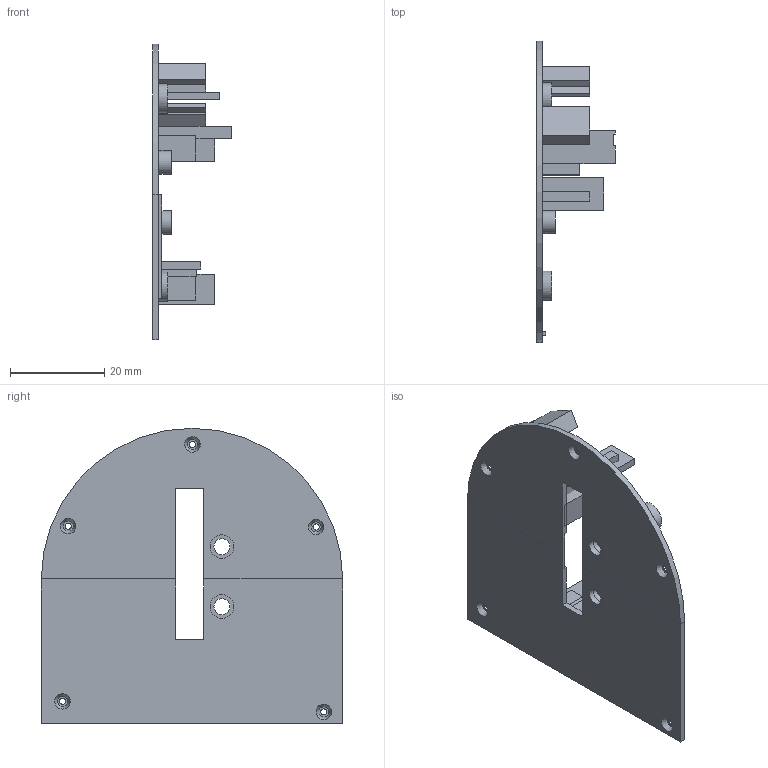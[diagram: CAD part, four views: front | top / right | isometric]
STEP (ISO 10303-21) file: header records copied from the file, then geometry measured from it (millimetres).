
FILE_DESCRIPTION(('FreeCAD Model'),'2;1');
FILE_NAME('/Users/alberto/Desktop/Dtto v2.0.1 STEP/007-1.step', '2017-05-29T11:45:10',('Author'),(''), 'Open CASCADE STEP processor 6.8','FreeCAD','Unknown');
FILE_SCHEMA(('AUTOMOTIVE_DESIGN_CC2 { 1 2 10303 214 -1 1 5 4 }'));
Length unit declared in the file: millimetre
Products named in the file (17): ASSEMBLY; Clone_of_Soporte_Servo_original001; Cubo327; Cubo296; Cubo297; Cubo298; Cubo299; Cut082; Clone_of_SoportLED003; Clone_of_SoportLED004; Original_Soporte_iman001; Clone_of_Cut175; Clone_of_Cut176; Clone_of_Cut177; Clone_of_Cut178; Cut211; Cut235
Assembly tree (16 placements, depth 2):
  ASSEMBLY
    Clone_of_Soporte_Servo_original001
    Cubo327
    Cubo296
    Cubo297
    Cubo298
    Cubo299
    Cut082
    Clone_of_SoportLED003
    Clone_of_SoportLED004
    Original_Soporte_iman001
    Clone_of_Cut175
    Clone_of_Cut176
    Clone_of_Cut177
    Clone_of_Cut178
    Cut211
    Cut235
Bounding box: 16.75 x 64 x 62.75 mm (x, y, z)
Volume: 6117 mm3; surface area: 10826.2 mm2
Topology: 18 solids, 18 shells, 199 faces, 434 edges, 280 vertices
Faces by surface type: plane 158, cylinder 28, bspline 8, cone 5
Full cylindrical faces by diameter (mm): 1.3 x5, 1.8 x2, 3.4 x4, 4.6 x9, 5 x2, 6.2 x5
Entity records: 14915 total; most frequent: CARTESIAN_POINT 5638, DIRECTION 1592, LINE 990, VECTOR 990, ORIENTED_EDGE 868, PCURVE 868, DEFINITIONAL_REPRESENTATION 868, EDGE_CURVE 434
